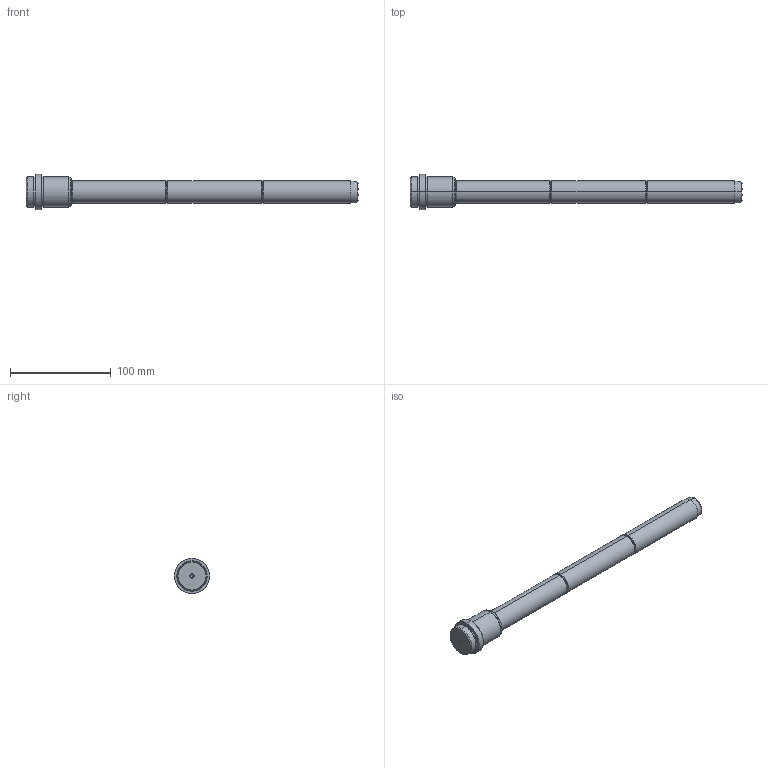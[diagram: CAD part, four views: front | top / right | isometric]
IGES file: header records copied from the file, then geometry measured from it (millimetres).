
Start section: SolidWorks IGES FILE using analytic representation for surfaces
Global section: file name: D:\zzzzz\Delta\D03\22\D03 - 22x36x285.IGS; native system: SolidWorks 2004 by SolidWorks Corporation; preprocessor: Version 5.3; author: Hkn; date: 080327.170343; units: millimetre
Bounding box: 330 x 35 x 35 mm (x, y, z)
Surface area: 25956.1 mm2 (no closed solid volume)
Topology: 0 solids, 0 shells, 56 faces, 1056 edges, 1052 vertices
Faces by surface type: revolution 36, bspline 20
